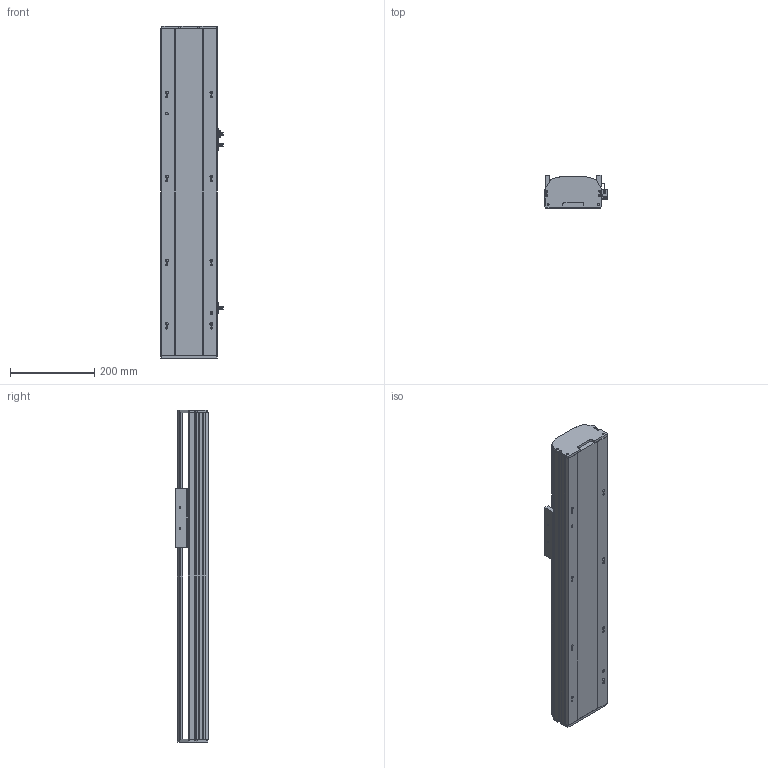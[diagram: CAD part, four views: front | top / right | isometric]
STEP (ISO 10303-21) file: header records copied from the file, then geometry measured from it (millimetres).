
FILE_DESCRIPTION (( 'STEP AP214' ), '1' );
FILE_NAME ('QTH14-400-M-P40.STEP', '2021-11-13T08:32:02', ( '' ), ( '' ), 'SwSTEP 2.0', 'SolidWorks 2020', '' );
FILE_SCHEMA (( 'AUTOMOTIVE_DESIGN' ));
Length unit declared in the file: millimetre
Products named in the file (5): 葩璃 QTH14-BC-005 賑釱MZ-135-03 ^QTH14-M-P40_SFA16; 葩璃 pm-t65-672^QTH14-M-P40; 葩璃 QTH14-M-001 菁釱MZ-135-01^QTH14-M-P40; 葩璃 QTH14-M-002 奻裔MZ-135-02^QTH14-M-P40; QTH14-400-M-P40
Assembly tree (6 placements, depth 2):
  QTH14-400-M-P40
    葩璃 QTH14-M-001 菁釱MZ-135-01^QTH14-M-P40
    葩璃 QTH14-M-002 奻裔MZ-135-02^QTH14-M-P40
    葩璃 QTH14-BC-005 賑釱MZ-135-03 ^QTH14-M-P40_SFA16
    葩璃 pm-t65-672^QTH14-M-P40  x3
Bounding box: 148.7 x 78 x 790 mm (x, y, z)
Volume: 5611852.6 mm3; surface area: 650175 mm2
Topology: 10 solids, 10 shells, 805 faces, 2168 edges, 1402 vertices
Faces by surface type: plane 502, cylinder 255, cone 48
Entity records: 18964 total; most frequent: DIRECTION 3136, CARTESIAN_POINT 3046, ORIENTED_EDGE 2980, EDGE_CURVE 1490, AXIS2_PLACEMENT_3D 1068, VECTOR 1000, LINE 1000, VERTEX_POINT 978
